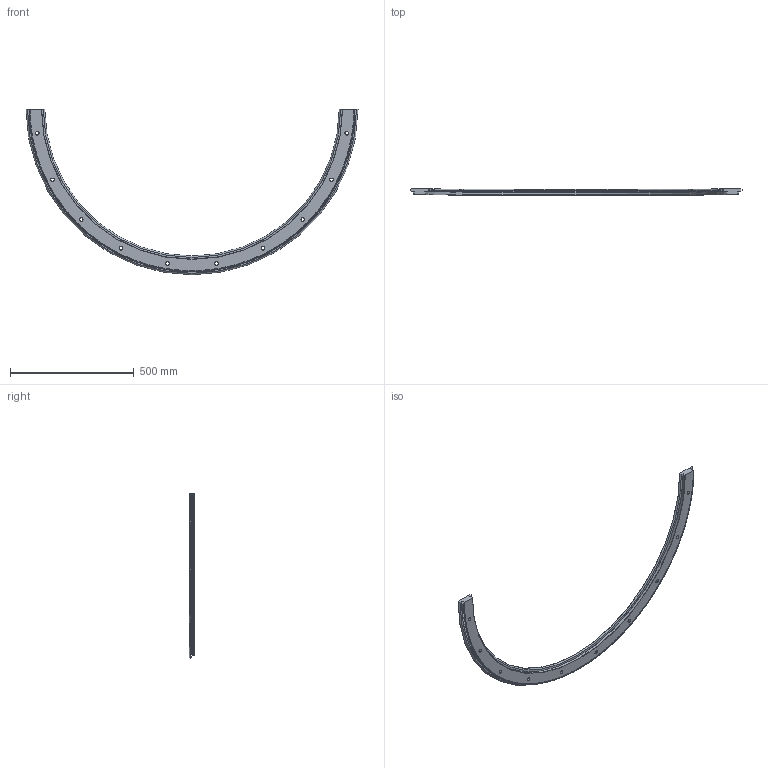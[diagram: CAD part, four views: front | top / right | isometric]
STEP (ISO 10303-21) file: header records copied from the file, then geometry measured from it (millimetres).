
FILE_DESCRIPTION( ( 'STEP AP203' ), '1' );
FILE_NAME( 'p:/temp/worker_20/temp/exporttempdir_3124_290_Xu1ix/format_0/R76 1267 R180 P.stp', '2021-07-19T05:44:02', ( 'License CC BY-ND 4.0' ), ( 'CADENAS' ), ' ', 'PARTsolutions', ' ' );
FILE_SCHEMA( ( 'CONFIG_CONTROL_DESIGN' ) );
Length unit declared in the file: millimetre
Products named in the file (1): _R76 1267 R180 P
Bounding box: 1342.87 x 24 x 669.44 mm (x, y, z)
Volume: 2621424.7 mm3; surface area: 439971.6 mm2
Topology: 1 solids, 1 shells, 2684 faces, 7130 edges, 4458 vertices
Faces by surface type: plane 1770, cylinder 460, cone 452, torus 2
Full cylindrical faces by diameter (mm): 14 x10, 20 x10
Entity records: 83416 total; most frequent: CARTESIAN_POINT 16920, ORIENTED_EDGE 14200, DIRECTION 13834, EDGE_CURVE 7100, AXIS2_PLACEMENT_3D 4937, VERTEX_POINT 4459, LINE 3960, VECTOR 3960
